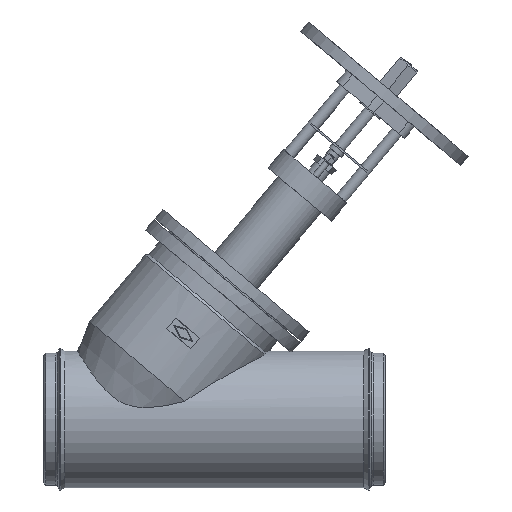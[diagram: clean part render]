
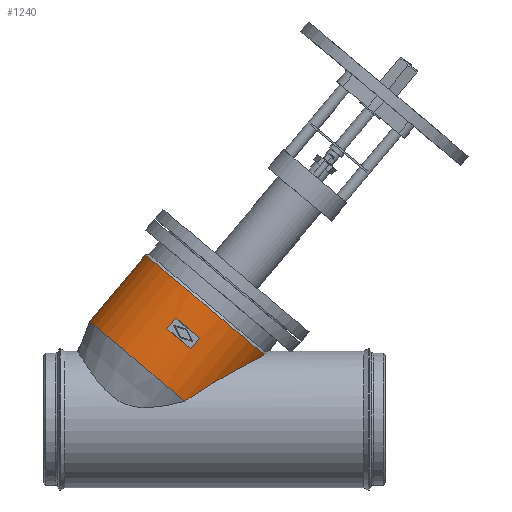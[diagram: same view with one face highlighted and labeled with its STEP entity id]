
A CAD part, top view. The second image highlights one B-rep face of the part: STEP entity #1240.
In plain terms, the highlighted cylindrical face has radius 198.5 mm (diameter 397 mm), a partial arc.
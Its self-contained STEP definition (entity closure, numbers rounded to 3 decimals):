
#10=CARTESIAN_POINT('',(335.176,199.233,0.));
#20=DIRECTION('',(0.643,0.766,
0.));
#30=DIRECTION('',(-0.766,0.643,
0.));
#40=AXIS2_PLACEMENT_3D('',#10,#20,#30);
#50=CYLINDRICAL_SURFACE('',#40,198.5);
#60=CARTESIAN_POINT('',(351.221,44.525,
164.066));
#70=CARTESIAN_POINT('',(352.37,45.37,
163.836));
#80=CARTESIAN_POINT('',(353.523,46.211,
163.601));
#90=CARTESIAN_POINT('',(361.22,51.773,
161.999));
#100=CARTESIAN_POINT('',(367.894,56.367,
160.455));
#110=CARTESIAN_POINT('',(381.372,65.319,
157.024));
#120=CARTESIAN_POINT('',(388.172,69.675,
155.137));
#130=CARTESIAN_POINT('',(401.761,78.154,
151.044));
#140=CARTESIAN_POINT('',(408.549,82.275,
148.837));
#150=CARTESIAN_POINT('',(421.986,90.275,
144.125));
#160=CARTESIAN_POINT('',(428.636,94.152,
141.62));
#170=CARTESIAN_POINT('',(441.677,101.644,
136.343));
#180=CARTESIAN_POINT('',(448.069,105.258,
133.571));
#190=CARTESIAN_POINT('',(463.791,114.046,
126.259));
#200=CARTESIAN_POINT('',(473.648,119.456,
121.206));
#210=CARTESIAN_POINT('',(493.206,130.04,
109.774));
#220=CARTESIAN_POINT('',(502.906,135.215,
103.395));
#230=CARTESIAN_POINT('',(516.704,142.505,
92.793));
#240=CARTESIAN_POINT('',(521.177,144.857,
89.088));
#250=CARTESIAN_POINT('',(529.766,149.353,
81.326));
#260=CARTESIAN_POINT('',(533.881,151.498,
77.269));
#270=CARTESIAN_POINT('',(541.647,155.532,
68.788));
#280=CARTESIAN_POINT('',(545.296,157.421,
64.365));
#290=CARTESIAN_POINT('',(549.202,159.438,
58.994));
#300=CARTESIAN_POINT('',(549.741,159.716,
58.235));
#310=CARTESIAN_POINT('',(550.273,159.991,
57.472));
#320=B_SPLINE_CURVE_WITH_KNOTS('',3,(#60,#70,#80,#90,#100,#110,#120,#130
,#140,#150,#160,#170,#180,#190,#200,#210,#220,#230,#240,#250,#260,#270,
#280,#290,#300,#310),.UNSPECIFIED.,.F.,.F.,(4,2,2,2,2,2,2,2,2,2,2,2,4),(
915.969,920.047,943.073,966.1,
989.127,1012.153,1035.18,1070.47,
1105.759,1123.404,1141.049,1158.694,
1161.57),.UNSPECIFIED.);
#330=CARTESIAN_POINT('',(351.221,44.525,
164.066));
#340=VERTEX_POINT('',#330);
#350=CARTESIAN_POINT('',(550.273,159.991,
57.472));
#360=VERTEX_POINT('',#350);
#370=EDGE_CURVE('',#340,#360,#320,.T.);
#380=ORIENTED_EDGE('',*,*,#370,.T.);
#390=CARTESIAN_POINT('',(265.627,116.347,0.));
#400=DIRECTION('',(-0.643,-0.766,
0.));
#410=DIRECTION('',(-0.766,0.643,
0.));
#420=AXIS2_PLACEMENT_3D('',#390,#400,#410);
#430=CIRCLE('',#420,198.5);
#440=CARTESIAN_POINT('',(351.221,44.525,
-164.066));
#450=VERTEX_POINT('',#440);
#460=EDGE_CURVE('',#340,#450,#430,.T.);
#470=ORIENTED_EDGE('',*,*,#460,.F.);
#480=CARTESIAN_POINT('',(550.273,159.991,
-57.472));
#490=CARTESIAN_POINT('',(549.741,159.716,
-58.235));
#500=CARTESIAN_POINT('',(549.202,159.438,
-58.994));
#510=CARTESIAN_POINT('',(545.296,157.421,
-64.365));
#520=CARTESIAN_POINT('',(541.647,155.532,
-68.788));
#530=CARTESIAN_POINT('',(533.881,151.498,
-77.269));
#540=CARTESIAN_POINT('',(529.766,149.353,
-81.326));
#550=CARTESIAN_POINT('',(521.177,144.857,
-89.088));
#560=CARTESIAN_POINT('',(516.704,142.505,
-92.793));
#570=CARTESIAN_POINT('',(502.906,135.215,
-103.395));
#580=CARTESIAN_POINT('',(493.206,130.04,
-109.774));
#590=CARTESIAN_POINT('',(473.648,119.456,
-121.206));
#600=CARTESIAN_POINT('',(463.791,114.046,
-126.259));
#610=CARTESIAN_POINT('',(448.069,105.258,
-133.571));
#620=CARTESIAN_POINT('',(441.677,101.644,
-136.343));
#630=CARTESIAN_POINT('',(428.636,94.152,
-141.62));
#640=CARTESIAN_POINT('',(421.986,90.275,
-144.125));
#650=CARTESIAN_POINT('',(408.549,82.275,
-148.837));
#660=CARTESIAN_POINT('',(401.761,78.154,
-151.044));
#670=CARTESIAN_POINT('',(388.172,69.675,
-155.137));
#680=CARTESIAN_POINT('',(381.372,65.319,
-157.024));
#690=CARTESIAN_POINT('',(367.894,56.367,
-160.455));
#700=CARTESIAN_POINT('',(361.22,51.773,
-161.999));
#710=CARTESIAN_POINT('',(353.523,46.211,
-163.601));
#720=CARTESIAN_POINT('',(352.37,45.37,
-163.836));
#730=CARTESIAN_POINT('',(351.221,44.525,
-164.066));
#740=B_SPLINE_CURVE_WITH_KNOTS('',3,(#480,#490,#500,#510,#520,#530,#540,
#550,#560,#570,#580,#590,#600,#610,#620,#630,#640,#650,#660,#670,#680,
#690,#700,#710,#720,#730),.UNSPECIFIED.,.F.,.F.,(4,2,2,2,2,2,2,2,2,2,2,2
,4),(14.769,17.645,35.29,52.935
,70.58,105.869,141.159,164.186,
187.212,210.239,233.266,256.292,
260.37),.UNSPECIFIED.);
#750=CARTESIAN_POINT('',(550.273,159.991,
-57.472));
#760=VERTEX_POINT('',#750);
#770=EDGE_CURVE('',#760,#450,#740,.T.);
#780=ORIENTED_EDGE('',*,*,#770,.T.);
#790=CARTESIAN_POINT('',(404.726,282.119,0.));
#800=DIRECTION('',(-0.643,-0.766,
0.));
#810=DIRECTION('',(-0.766,0.643,
0.));
#820=AXIS2_PLACEMENT_3D('',#790,#800,#810);
#830=CIRCLE('',#820,198.5);
#840=EDGE_CURVE('',#360,#760,#830,.T.);
#850=ORIENTED_EDGE('',*,*,#840,.T.);
#860=EDGE_LOOP('',(#850,#780,#470,#380));
#870=FACE_OUTER_BOUND('',#860,.T.);
#880=CARTESIAN_POINT('',(377.213,188.658,
194.631));
#890=DIRECTION('',(0.643,0.766,0.));
#900=VECTOR('',#890,1.);
#910=LINE('',#880,#900);
#920=CARTESIAN_POINT('',(366.286,175.635,
194.631));
#930=VERTEX_POINT('',#920);
#940=CARTESIAN_POINT('',(388.141,201.68,
194.631));
#950=VERTEX_POINT('',#940);
#960=EDGE_CURVE('',#930,#950,#910,.T.);
#970=ORIENTED_EDGE('',*,*,#960,.F.);
#980=CARTESIAN_POINT('',(358.265,226.749,0.));
#990=DIRECTION('',(-0.643,-0.766,
0.));
#1000=DIRECTION('',(-0.766,0.643,
0.));
#1010=AXIS2_PLACEMENT_3D('',#980,#990,#1000);
#1020=CIRCLE('',#1010,198.5);
#1030=CARTESIAN_POINT('',(328.389,251.818,
194.631));
#1040=VERTEX_POINT('',#1030);
#1050=EDGE_CURVE('',#950,#1040,#1020,.T.);
#1060=ORIENTED_EDGE('',*,*,#1050,.F.);
#1070=CARTESIAN_POINT('',(317.462,238.795,
194.631));
#1080=DIRECTION('',(-0.643,-0.766,0.));
#1090=VECTOR('',#1080,1.);
#1100=LINE('',#1070,#1090);
#1110=CARTESIAN_POINT('',(306.535,225.772,
194.631));
#1120=VERTEX_POINT('',#1110);
#1130=EDGE_CURVE('',#1040,#1120,#1100,.T.);
#1140=ORIENTED_EDGE('',*,*,#1130,.F.);
#1150=CARTESIAN_POINT('',(336.41,200.704,0.));
#1160=DIRECTION('',(0.643,0.766,
0.));
#1170=DIRECTION('',(-0.766,0.643,
0.));
#1180=AXIS2_PLACEMENT_3D('',#1150,#1160,#1170);
#1190=CIRCLE('',#1180,198.5);
#1200=EDGE_CURVE('',#1120,#930,#1190,.T.);
#1210=ORIENTED_EDGE('',*,*,#1200,.F.);
#1220=EDGE_LOOP('',(#1210,#1140,#1060,#970));
#1230=FACE_BOUND('',#1220,.T.);
#1240=ADVANCED_FACE('',(#870,#1230),#50,.T.);
